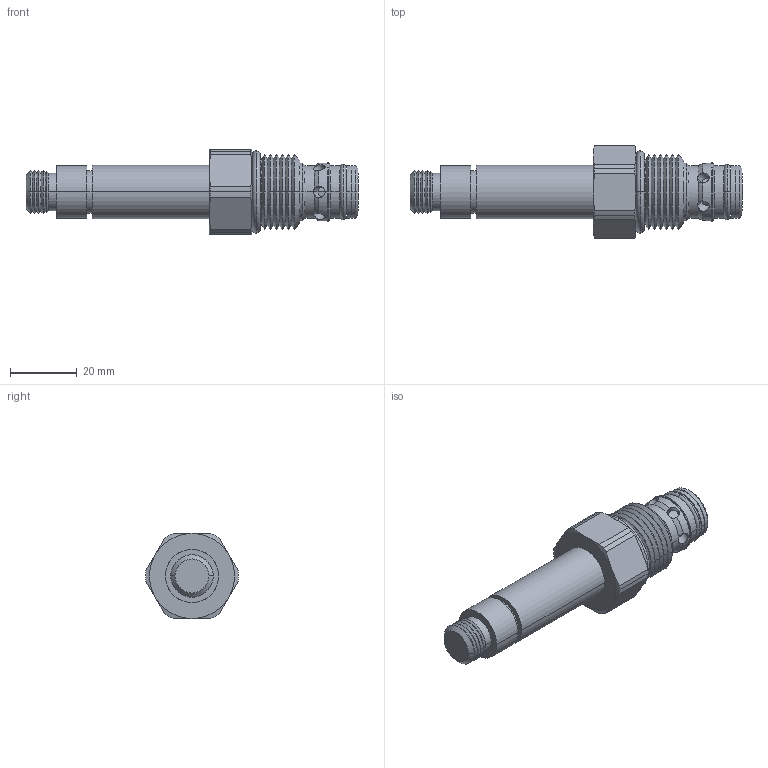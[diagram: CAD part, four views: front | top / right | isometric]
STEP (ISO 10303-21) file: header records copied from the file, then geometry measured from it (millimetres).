
FILE_DESCRIPTION((''),'2;1');
FILE_NAME('U:\Solid model CD\Solid model full\Solenoid\STEP\HES2A00-3D Full.stp','2008-06-23T11:20:36',('Dan'),(''),'Autodesk Inventor 9','Autodesk Inventor 9','');
FILE_SCHEMA(('AUTOMOTIVE_DESIGN { 1 0 10303 214 1 1 1 1 }'));
Length unit declared in the file: inch
Products named in the file (5): HES2A00-3D Full; HES2A00-3D Full1; HES2A00-3D Full2; HES2A00-3D Full3; HES2A00-3D Full4
Assembly tree (4 placements, depth 2):
  HES2A00-3D Full
    HES2A00-3D Full1
    HES2A00-3D Full2
    HES2A00-3D Full3
    HES2A00-3D Full4
Bounding box: 99.2 x 27.76 x 25.4 mm (x, y, z)
Volume: 24977.6 mm3; surface area: 9119.9 mm2
Topology: 4 solids, 4 shells, 181 faces, 436 edges, 264 vertices
Faces by surface type: cone 74, cylinder 64, plane 25, torus 10, bspline 8
Entity records: 6194 total; most frequent: CARTESIAN_POINT 1836, DIRECTION 952, ORIENTED_EDGE 872, EDGE_CURVE 436, AXIS2_PLACEMENT_3D 412, VERTEX_POINT 264, CIRCLE 230, EDGE_LOOP 202
